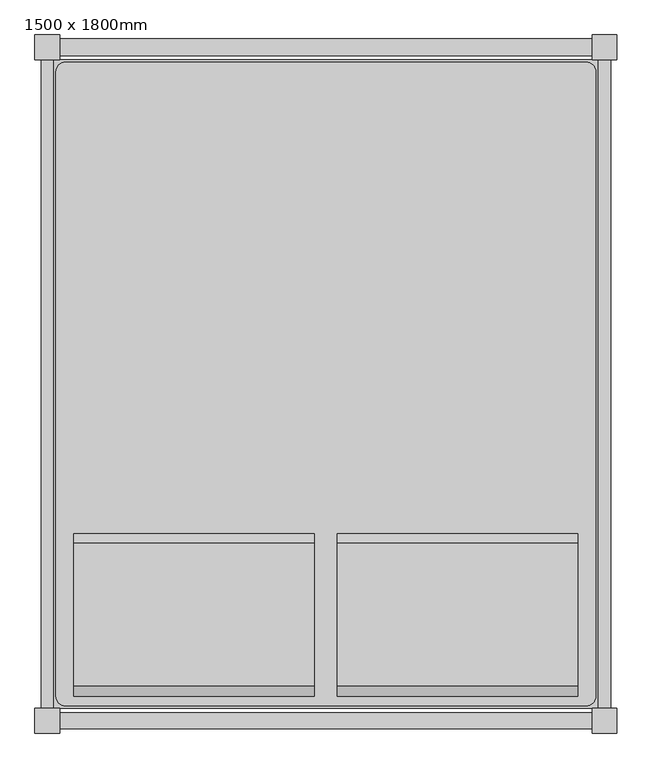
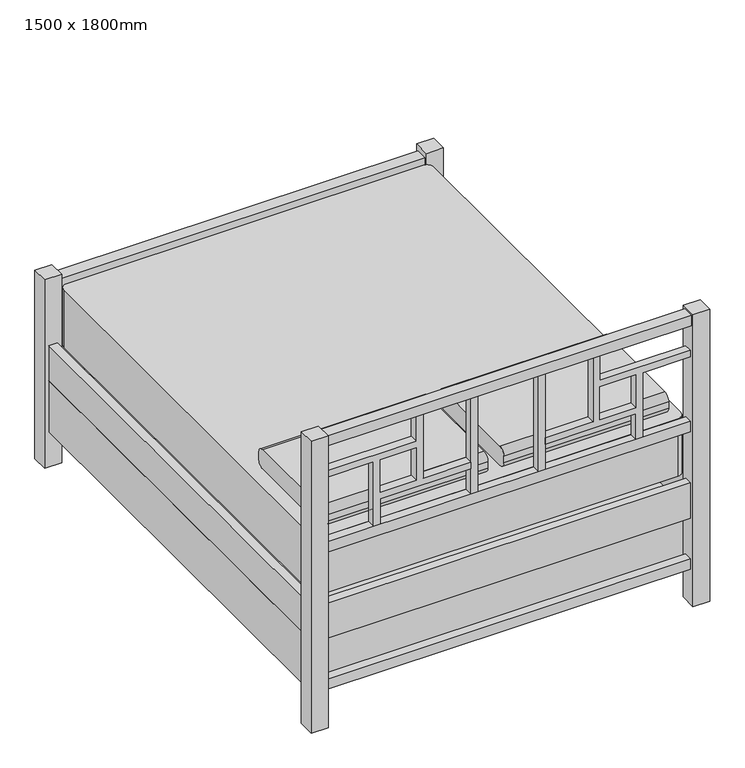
"""IFC4 building model written with IfcOpenShell, lengths in millimetres: furniture geometry, 床 (6)-雙人含床架 : 1500 x 1800mm."""

from ifc_helpers import new_model, si_unit, point, frame, frame_2d, origin, origin_with_axes, place, context, project, spatial, polyline, circle_curve, trimmed, segment, composite_curve, outline, extrude, source, transform, mapped, element, save


def furniture_1500_x_1800mm_e6999785(model_context):
    return source(origin(), model_context, "Body", "SweptSolid", [
        extrude(outline(polyline([(686.5, 1746.025), (-686.5, 1746.025), (-686.5, 1790.475), (686.5, 1790.475), (686.5, 1746.025)])), frame((0.0, 0.0, 685.8), z_axis=(0.0, 0.0, 1.0), x_axis=(1.0, 0.0, 0.0)), (0.0, 0.0, 1.0), 41.275),
        extrude(outline(composite_curve([segment(trimmed(circle_curve(frame_2d((670.625, 1704.75)), 25.4), [point((670.625, 1730.15))], [point((696.025, 1704.75))], False, "CARTESIAN"), True, "CONTINUOUS"), segment(polyline([(696.025, 1704.75), (696.025, 95.25)]), True, "CONTINUOUS"), segment(trimmed(circle_curve(frame_2d((670.625, 95.25)), 25.4), [point((696.025, 95.25))], [point((670.625, 69.85))], False, "CARTESIAN"), True, "CONTINUOUS"), segment(polyline([(670.625, 69.85), (-670.625, 69.85)]), True, "CONTINUOUS"), segment(trimmed(circle_curve(frame_2d((-670.625, 95.25)), 25.4), [point((-670.625, 69.85))], [point((-696.025, 95.25))], False, "CARTESIAN"), True, "CONTINUOUS"), segment(polyline([(-696.025, 95.25), (-696.025, 1704.75)]), True, "CONTINUOUS"), segment(trimmed(circle_curve(frame_2d((-670.625, 1704.75)), 25.4), [point((-696.025, 1704.75))], [point((-670.625, 1730.15))], False, "CARTESIAN"), True, "CONTINUOUS"), segment(polyline([(-670.625, 1730.15), (670.625, 1730.15)]), True, "CONTINUOUS")], self_intersect=False)), frame((0.0, 0.0, 482.6), z_axis=(0.0, 0.0, 1.0), x_axis=(1.0, 0.0, 0.0)), (0.0, 0.0, 1.0), 228.6),
        extrude(outline(polyline([(734.125, 1736.5), (734.125, 63.5), (-734.125, 63.5), (-734.125, 1736.5), (734.125, 1736.5)])), frame((0.0, 0.0, 139.7), z_axis=(0.0, 0.0, 1.0), x_axis=(1.0, 0.0, 0.0)), (0.0, 0.0, 1.0), 203.2),
        extrude(outline(polyline([(686.5, 47.625), (686.5, 15.875), (-686.5, 15.875), (-686.5, 47.625), (686.5, 47.625)])), frame((0.0, 0.0, 685.8), z_axis=(0.0, 0.0, 1.0), x_axis=(1.0, 0.0, 0.0)), (0.0, 0.0, 1.0), 41.275),
        extrude(outline(polyline([(686.5, 52.3875), (686.5, 11.1125), (-686.5, 11.1125), (-686.5, 52.3875), (686.5, 52.3875)])), frame((0.0, 0.0, 1111.25), z_axis=(0.0, 0.0, 1.0), x_axis=(1.0, 0.0, 0.0)), (0.0, 0.0, 1.0), 41.275),
        extrude(outline(polyline([(702.375, 63.5), (702.375, 1736.5), (734.125, 1736.5), (734.125, 63.5), (702.375, 63.5)])), frame((0.0, 0.0, 342.9), z_axis=(0.0, 0.0, 1.0), x_axis=(1.0, 0.0, 0.0)), (0.0, 0.0, 1.0), 139.7),
        extrude(outline(polyline([(686.5, 47.625), (686.5, 15.875), (-686.5, 15.875), (-686.5, 47.625), (686.5, 47.625)])), frame((0.0, 0.0, 342.9), z_axis=(0.0, 0.0, 1.0), x_axis=(1.0, 0.0, 0.0)), (0.0, 0.0, 1.0), 139.7),
        extrude(outline(polyline([(-702.375, 63.5), (-734.125, 63.5), (-734.125, 1736.5), (-702.375, 1736.5), (-702.375, 63.5)])), frame((0.0, 0.0, 342.9), z_axis=(0.0, 0.0, 1.0), x_axis=(1.0, 0.0, 0.0)), (0.0, 0.0, 1.0), 139.7),
        extrude(outline(polyline([(686.5, 0.0), (686.5, 63.5), (750.0, 63.5), (750.0, 0.0), (686.5, 0.0)])), origin_with_axes(), (0.0, 0.0, 1.0), 1160.4625),
        extrude(outline(polyline([(-686.5, 0.0), (-750.0, 0.0), (-750.0, 63.5), (-686.5, 63.5), (-686.5, 0.0)])), origin_with_axes(), (0.0, 0.0, 1.0), 1160.4625),
        extrude(outline(polyline([(-686.5, 1800.0), (-686.5, 1736.5), (-750.0, 1736.5), (-750.0, 1800.0), (-686.5, 1800.0)])), origin_with_axes(), (0.0, 0.0, 1.0), 749.3),
        extrude(outline(polyline([(686.5, 1800.0), (750.0, 1800.0), (750.0, 1736.5), (686.5, 1736.5), (686.5, 1800.0)])), origin_with_axes(), (0.0, 0.0, 1.0), 749.3),
        extrude(outline(polyline([(1009.65, 345.1), (1111.25, 345.1), (1111.25, 319.7), (854.075, 319.7), (854.075, 139.7), (828.675, 139.7), (828.675, 481.1), (727.075, 481.1), (727.075, 506.5), (984.25, 506.5), (984.25, 686.5), (1009.65, 686.5), (1009.65, 345.1)]), holes=[polyline([(854.075, 345.1), (984.25, 345.1), (984.25, 481.1), (854.075, 481.1), (854.075, 345.1)])]), frame((0.0, 15.875, 0.0), z_axis=(0.0, 1.0, 0.0), x_axis=(0.0, 0.0, 1.0)), (0.0, 0.0, 1.0), 31.75),
        extrude(outline(polyline([(1009.65, -345.1), (1009.65, -686.5), (984.25, -686.5), (984.25, -506.5), (727.075, -506.5), (727.075, -481.1), (828.675, -481.1), (828.675, -139.7), (854.075, -139.7), (854.075, -319.7), (1111.25, -319.7), (1111.25, -345.1), (1009.65, -345.1)]), holes=[polyline([(854.075, -345.1), (854.075, -481.1), (984.25, -481.1), (984.25, -345.1), (854.075, -345.1)])]), frame((0.0, 15.875, 0.0), z_axis=(0.0, 1.0, 0.0), x_axis=(0.0, 0.0, 1.0)), (0.0, 0.0, 1.0), 31.75),
        extrude(outline(polyline([(-114.3, 15.875), (-139.7, 15.875), (-139.7, 47.625), (-114.3, 47.625), (-114.3, 15.875)])), frame((0.0, 0.0, 727.075), z_axis=(0.0, 0.0, 1.0), x_axis=(1.0, 0.0, 0.0)), (0.0, 0.0, 1.0), 384.175),
        extrude(outline(polyline([(114.3, 15.875), (114.3, 47.625), (139.7, 47.625), (139.7, 15.875), (114.3, 15.875)])), frame((0.0, 0.0, 727.075), z_axis=(0.0, 0.0, 1.0), x_axis=(1.0, 0.0, 0.0)), (0.0, 0.0, 1.0), 384.175),
        extrude(outline(polyline([(-114.3, 1790.475), (-114.3, 1746.025), (-139.7, 1746.025), (-139.7, 1790.475), (-114.3, 1790.475)])), frame((0.0, 0.0, 482.6), z_axis=(0.0, 0.0, 1.0), x_axis=(1.0, 0.0, 0.0)), (0.0, 0.0, 1.0), 203.2),
        extrude(outline(polyline([(114.3, 1790.475), (139.7, 1790.475), (139.7, 1746.025), (114.3, 1746.025), (114.3, 1790.475)])), frame((0.0, 0.0, 482.6), z_axis=(0.0, 0.0, 1.0), x_axis=(1.0, 0.0, 0.0)), (0.0, 0.0, 1.0), 203.2),
        extrude(outline(polyline([(-114.3, 1790.475), (-114.3, 1746.025), (-139.7, 1746.025), (-139.7, 1790.475), (-114.3, 1790.475)])), frame((0.0, 0.0, 180.975), z_axis=(0.0, 0.0, 1.0), x_axis=(1.0, 0.0, 0.0)), (0.0, 0.0, 1.0), 161.925),
        extrude(outline(polyline([(114.3, 1790.475), (139.7, 1790.475), (139.7, 1746.025), (114.3, 1746.025), (114.3, 1790.475)])), frame((0.0, 0.0, 180.975), z_axis=(0.0, 0.0, 1.0), x_axis=(1.0, 0.0, 0.0)), (0.0, 0.0, 1.0), 161.925),
        extrude(outline(polyline([(686.5, 47.625), (686.5, 15.875), (-686.5, 15.875), (-686.5, 47.625), (686.5, 47.625)])), frame((0.0, 0.0, 139.7), z_axis=(0.0, 0.0, 1.0), x_axis=(1.0, 0.0, 0.0)), (0.0, 0.0, 1.0), 41.275),
        extrude(outline(polyline([(686.5, 1790.475), (686.5, 1746.025), (-686.5, 1746.025), (-686.5, 1790.475), (686.5, 1790.475)])), frame((0.0, 0.0, 139.7), z_axis=(0.0, 0.0, 1.0), x_axis=(1.0, 0.0, 0.0)), (0.0, 0.0, 1.0), 41.275),
        extrude(outline(polyline([(686.5, 1746.025), (-686.5, 1746.025), (-686.5, 1790.475), (686.5, 1790.475), (686.5, 1746.025)])), frame((0.0, 0.0, 342.9), z_axis=(0.0, 0.0, 1.0), x_axis=(1.0, 0.0, 0.0)), (0.0, 0.0, 1.0), 139.7),
        extrude(outline(composite_curve([segment(polyline([(488.8329156, 719.1641526), (120.5329156, 719.1641526)]), True, "CONTINUOUS"), segment(trimmed(circle_curve(frame_2d((120.5329156, 744.5641526)), 25.4), [point((120.5329156, 719.1641526))], [point((95.1329156, 744.5641526))], False, "CARTESIAN"), True, "CONTINUOUS"), segment(polyline([(95.1329156, 744.5641526), (95.1329156, 769.9641526)]), True, "CONTINUOUS"), segment(trimmed(circle_curve(frame_2d((120.5329156, 769.9641526)), 25.4), [point((95.1329156, 769.9641526))], [point((120.5329156, 795.3641526))], False, "CARTESIAN"), True, "CONTINUOUS"), segment(polyline([(120.5329156, 795.3641526), (488.8329156, 795.3641526)]), True, "CONTINUOUS"), segment(trimmed(circle_curve(frame_2d((488.8329156, 769.9641526)), 25.4), [point((488.8329156, 795.3641526))], [point((514.2329156, 769.9641526))], False, "CARTESIAN"), True, "CONTINUOUS"), segment(polyline([(514.2329156, 769.9641526), (514.2329156, 744.5641526)]), True, "CONTINUOUS"), segment(trimmed(circle_curve(frame_2d((488.8329156, 744.5641526)), 25.4), [point((514.2329156, 744.5641526))], [point((488.8329156, 719.1641526))], False, "CARTESIAN"), True, "CONTINUOUS")], self_intersect=False)), frame((30.0, 0.0, 0.0), z_axis=(1.0, 0.0, 0.0), x_axis=(0.0, 1.0, 0.0)), (0.0, 0.0, 1.0), 620.0),
        extrude(outline(composite_curve([segment(polyline([(488.8329156, 719.1641526), (120.5329156, 719.1641526)]), True, "CONTINUOUS"), segment(trimmed(circle_curve(frame_2d((120.5329156, 744.5641526)), 25.4), [point((120.5329156, 719.1641526))], [point((95.1329156, 744.5641526))], False, "CARTESIAN"), True, "CONTINUOUS"), segment(polyline([(95.1329156, 744.5641526), (95.1329156, 769.9641526)]), True, "CONTINUOUS"), segment(trimmed(circle_curve(frame_2d((120.5329156, 769.9641526)), 25.4), [point((95.1329156, 769.9641526))], [point((120.5329156, 795.3641526))], False, "CARTESIAN"), True, "CONTINUOUS"), segment(polyline([(120.5329156, 795.3641526), (488.8329156, 795.3641526)]), True, "CONTINUOUS"), segment(trimmed(circle_curve(frame_2d((488.8329156, 769.9641526)), 25.4), [point((488.8329156, 795.3641526))], [point((514.2329156, 769.9641526))], False, "CARTESIAN"), True, "CONTINUOUS"), segment(polyline([(514.2329156, 769.9641526), (514.2329156, 744.5641526)]), True, "CONTINUOUS"), segment(trimmed(circle_curve(frame_2d((488.8329156, 744.5641526)), 25.4), [point((514.2329156, 744.5641526))], [point((488.8329156, 719.1641526))], False, "CARTESIAN"), True, "CONTINUOUS")], self_intersect=False)), frame((-650.0, 0.0, 0.0), z_axis=(1.0, 0.0, 0.0), x_axis=(0.0, 1.0, 0.0)), (0.0, 0.0, 1.0), 620.0),
    ])


if __name__ == "__main__":
    model = new_model("IFC4")
    model_context = context("Model", 3, world=origin())
    ifc_project = project(units=[si_unit("LENGTHUNIT", "METRE", prefix="MILLI")], contexts=[model_context])
    site = spatial("IfcSite", under=ifc_project)
    building = spatial("IfcBuilding", under=site)
    placement = place(None, origin())
    furniture_1500_x_1800mm_shape = furniture_1500_x_1800mm_e6999785(model_context)
    element("IfcFurniture", 1, ObjectType="床 (6)-雙人含床架 : 1500 x 1800mm", at=placement, inside=building, context=model_context, shape_type="MappedRepresentation", body=[
        mapped(furniture_1500_x_1800mm_shape, transform((0.0, 0.0, 0.0), x_axis=(1.0, 0.0, 0.0), y_axis=(0.0, 1.0, 0.0), z_axis=(0.0, 0.0, 1.0))),
    ])
    save(model, "model.ifc")
